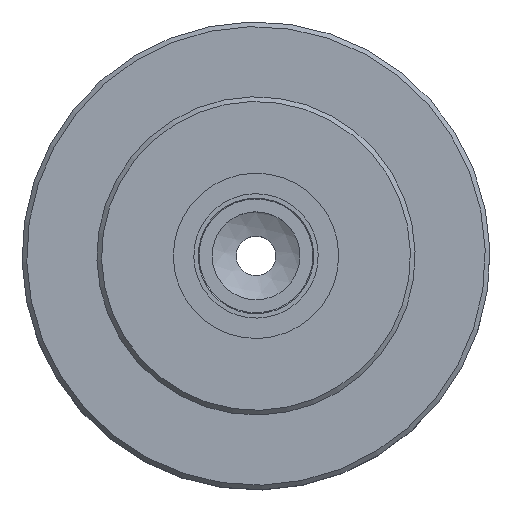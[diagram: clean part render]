
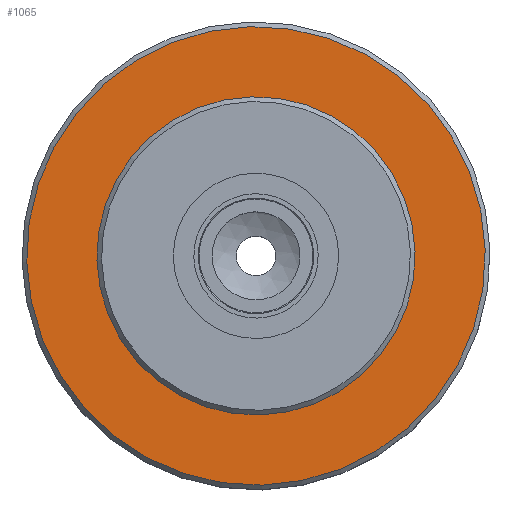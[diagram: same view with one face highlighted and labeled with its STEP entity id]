
A CAD part, top view. The second image highlights one B-rep face of the part: STEP entity #1065.
In plain terms, the highlighted planar face has unit normal (0, 0, 1).
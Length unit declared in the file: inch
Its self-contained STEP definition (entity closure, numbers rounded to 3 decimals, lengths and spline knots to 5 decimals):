
#46=PLANE('',#1228);
#58=FACE_BOUND('',#173,.T.);
#111=FACE_OUTER_BOUND('',#172,.T.);
#172=EDGE_LOOP('',(#938,#939));
#173=EDGE_LOOP('',(#940,#941));
#346=CIRCLE('',#1185,0.11713);
#347=CIRCLE('',#1186,0.11713);
#372=CIRCLE('',#1221,0.1688);
#373=CIRCLE('',#1222,0.1688);
#455=VERTEX_POINT('',#1853);
#456=VERTEX_POINT('',#1855);
#481=VERTEX_POINT('',#1925);
#482=VERTEX_POINT('',#1927);
#598=EDGE_CURVE('',#455,#456,#346,.T.);
#599=EDGE_CURVE('',#456,#455,#347,.T.);
#634=EDGE_CURVE('',#482,#481,#372,.T.);
#635=EDGE_CURVE('',#481,#482,#373,.T.);
#938=ORIENTED_EDGE('',*,*,#634,.T.);
#939=ORIENTED_EDGE('',*,*,#635,.T.);
#940=ORIENTED_EDGE('',*,*,#599,.F.);
#941=ORIENTED_EDGE('',*,*,#598,.F.);
#1065=ADVANCED_FACE('',(#111,#58),#46,.T.);
#1185=AXIS2_PLACEMENT_3D('',#1856,#1471,#1472);
#1186=AXIS2_PLACEMENT_3D('',#1857,#1473,#1474);
#1221=AXIS2_PLACEMENT_3D('',#1928,#1553,#1554);
#1222=AXIS2_PLACEMENT_3D('',#1929,#1555,#1556);
#1228=AXIS2_PLACEMENT_3D('',#1935,#1567,#1568);
#1471=DIRECTION('center_axis',(0.,0.,
1.));
#1472=DIRECTION('ref_axis',(0.783,-0.622,0.));
#1473=DIRECTION('center_axis',(0.,0.,
1.));
#1474=DIRECTION('ref_axis',(0.783,-0.622,0.));
#1553=DIRECTION('center_axis',(0.,0.,
1.));
#1554=DIRECTION('ref_axis',(0.783,-0.622,0.));
#1555=DIRECTION('center_axis',(0.,0.,
1.));
#1556=DIRECTION('ref_axis',(0.783,-0.622,0.));
#1567=DIRECTION('center_axis',(0.,0.,
1.));
#1568=DIRECTION('ref_axis',(0.783,-0.622,0.));
#1853=CARTESIAN_POINT('',(1.33623,-0.4652,-0.22047));
#1855=CARTESIAN_POINT('',(1.51968,-0.61088,-0.22047));
#1856=CARTESIAN_POINT('Origin',(1.42795,-0.53804,-0.22047));
#1857=CARTESIAN_POINT('Origin',(1.42795,-0.53804,-0.22047));
#1925=CARTESIAN_POINT('',(1.56014,-0.64301,-0.22047));
#1927=CARTESIAN_POINT('',(1.29576,-0.43306,-0.22047));
#1928=CARTESIAN_POINT('Origin',(1.42795,-0.53804,-0.22047));
#1929=CARTESIAN_POINT('Origin',(1.42795,-0.53804,-0.22047));
#1935=CARTESIAN_POINT('Origin',(1.50079,-0.44631,-0.22047));
